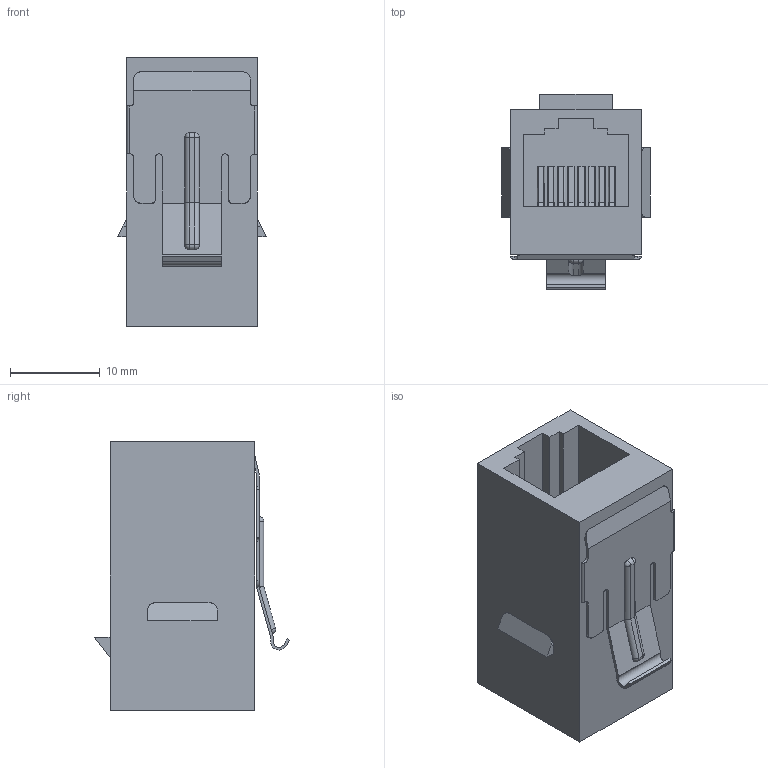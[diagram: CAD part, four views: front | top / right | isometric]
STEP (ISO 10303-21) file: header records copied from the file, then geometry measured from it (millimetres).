
FILE_DESCRIPTION(/* description */ ('B0259700BA17'),/* implementation_level */ '2;1');
FILE_NAME(/* name */ 'W:\940\940.083.stp',/* time_stamp */ '2016-09-22T14:54:56+02:00',/* author */ ('Theresa.Wilhelm'),/* organization */ (''),/* preprocessor_version */ 'ST-DEVELOPER v16.1',/* originating_system */ 'Autodesk Inventor 2016',/* authorisation */ '');
FILE_SCHEMA (('AUTOMOTIVE_DESIGN { 1 0 10303 214 3 1 1 }'));
Length unit declared in the file: millimetre
Products named in the file (1): Cat_6e_Buchse
Bounding box: 16.6 x 21.78 x 30 mm (x, y, z)
Volume: 5128.2 mm3; surface area: 4011.8 mm2
Topology: 1 solids, 1 shells, 268 faces, 718 edges, 464 vertices
Faces by surface type: plane 158, cylinder 74, torus 32, sphere 4
Entity records: 8750 total; most frequent: CARTESIAN_POINT 1737, ORIENTED_EDGE 1432, DIRECTION 1404, EDGE_CURVE 716, LINE 502, VECTOR 502, VERTEX_POINT 464, AXIS2_PLACEMENT_3D 451
